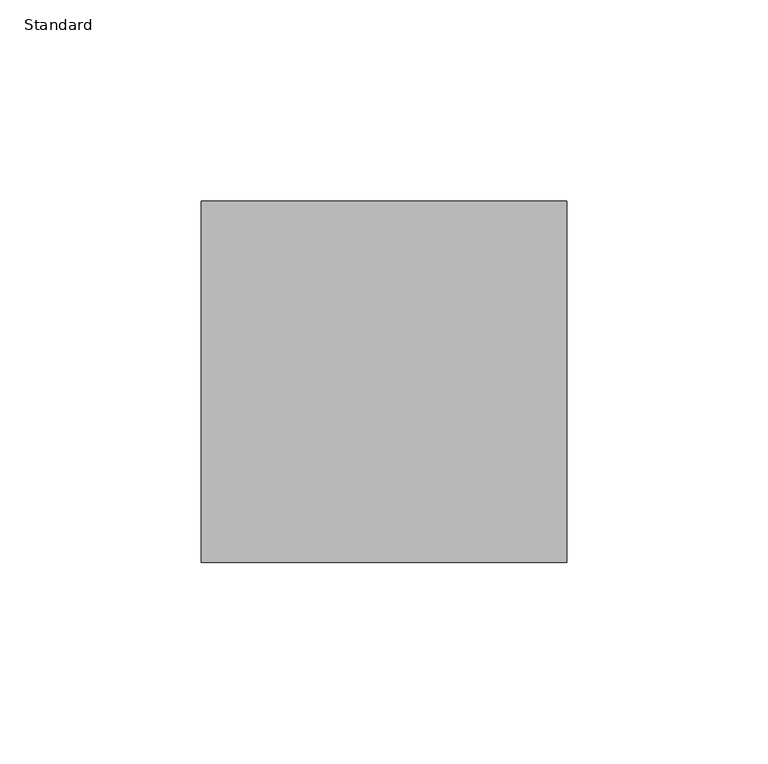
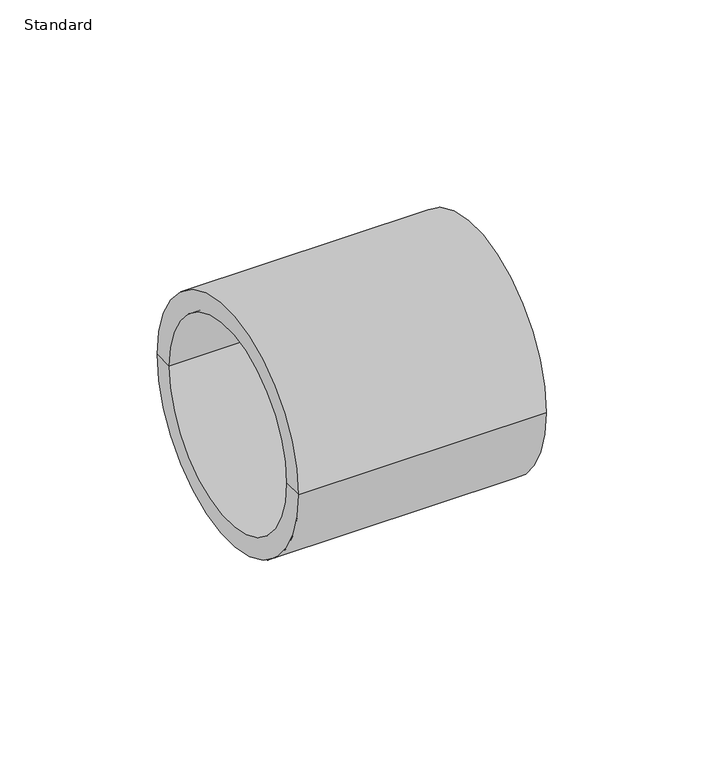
"""IFC4 building model written with IfcOpenShell, lengths in millimetres: pipe fitting geometry, Durapipe_PipeFitting_PVC_Socket : Standard."""

from ifc_helpers import new_model, si_unit, frame, origin, place, context, project, spatial, polyline, circle_curve, source, transform, mapped, element, save
from ifc_brep_helpers import plane_surface, cylinder_surface, revolved_surface, advanced_brep


def standard_5b41f391(model_context):
    return source(origin(), model_context, "Body", "AdvancedBrep", [
        advanced_brep(
        [(-45.5, -45.0, 0.0), (-45.5, 45.0, 0.0), (45.5, 45.0, 0.0), (45.5, -45.0, 0.0), (-45.5, -37.5, 0.0), (-45.5, 37.5, 0.0), (1.5, -34.5, 0.0), (1.5, 34.5, 0.0), (-1.5, 34.5, 0.0), (-1.5, -34.5, 0.0), (45.5, 37.5, 0.0), (45.5, -37.5, 0.0), (-1.5, -37.5, 0.0), (-1.5, 37.5, 0.0), (1.5, -37.5, 0.0), (1.5, 37.5, 0.0)],
        [
            (0, 1, circle_curve(frame((-45.5, 0.0, 0.0), z_axis=(1.0, 0.0, 0.0), x_axis=(0.0, 1.0, 0.0)), 45.0)),
            (1, 2),
            (2, 3, circle_curve(frame((45.5, 0.0, 0.0), z_axis=(-1.0, 0.0, 0.0), x_axis=(0.0, 1.0, 0.0)), 45.0)),
            (3, 0),
            (1, 0, circle_curve(frame((-45.5, 0.0, 0.0), z_axis=(1.0, 0.0, 0.0), x_axis=(0.0, 1.0, 0.0)), 45.0)),
            (3, 2, circle_curve(frame((45.5, 0.0, 0.0), z_axis=(-1.0, 0.0, 0.0), x_axis=(0.0, 1.0, 0.0)), 45.0)),
            (4, 5, circle_curve(frame((-45.5, 0.0, 0.0), z_axis=(1.0, 0.0, 0.0), x_axis=(0.0, 1.0, 0.0)), 37.5)),
            (5, 1),
            (0, 4),
            (5, 4, circle_curve(frame((-45.5, 0.0, 0.0), z_axis=(1.0, 0.0, 0.0), x_axis=(0.0, 1.0, 0.0)), 37.5)),
            (6, 7, circle_curve(frame((1.5, 0.0, 0.0), z_axis=(1.0, 0.0, 0.0), x_axis=(0.0, 1.0, 0.0)), 34.5)),
            (7, 8),
            (8, 9, circle_curve(frame((-1.5, 0.0, 0.0), z_axis=(-1.0, 0.0, 0.0), x_axis=(0.0, 1.0, 0.0)), 34.5)),
            (9, 6),
            (7, 6, circle_curve(frame((1.5, 0.0, 0.0), z_axis=(1.0, 0.0, 0.0), x_axis=(0.0, 1.0, 0.0)), 34.5)),
            (9, 8, circle_curve(frame((-1.5, 0.0, 0.0), z_axis=(-1.0, 0.0, 0.0), x_axis=(0.0, 1.0, 0.0)), 34.5)),
            (2, 10),
            (10, 11, circle_curve(frame((45.5, 0.0, 0.0), z_axis=(-1.0, 0.0, 0.0), x_axis=(0.0, 1.0, 0.0)), 37.5)),
            (11, 3),
            (11, 10, circle_curve(frame((45.5, 0.0, 0.0), z_axis=(-1.0, 0.0, 0.0), x_axis=(0.0, 1.0, 0.0)), 37.5)),
            (12, 13, circle_curve(frame((-1.5, 0.0, 0.0), z_axis=(1.0, 0.0, 0.0), x_axis=(0.0, 1.0, 0.0)), 37.5)),
            (13, 5),
            (4, 12),
            (13, 12, circle_curve(frame((-1.5, 0.0, 0.0), z_axis=(1.0, 0.0, 0.0), x_axis=(0.0, 1.0, 0.0)), 37.5)),
            (8, 13),
            (12, 9),
            (14, 15, circle_curve(frame((1.5, 0.0, 0.0), z_axis=(1.0, 0.0, 0.0), x_axis=(0.0, 1.0, 0.0)), 37.5)),
            (15, 7),
            (6, 14),
            (15, 14, circle_curve(frame((1.5, 0.0, 0.0), z_axis=(1.0, 0.0, 0.0), x_axis=(0.0, 1.0, 0.0)), 37.5)),
            (10, 15),
            (14, 11),
        ],
        [
            cylinder_surface(frame((-45.5, 0.0, 0.0), z_axis=(-1.0, 0.0, 0.0), x_axis=(0.0, 1.0, 0.0)), 45.0),
            plane_surface(frame((-45.5, 0.0, 0.0), z_axis=(-1.0, 0.0, 0.0), x_axis=(0.0, 1.0, 0.0))),
            revolved_surface(polyline([(-1.5, 34.5, 0.0), (1.5, 34.5, 0.0)]), (-45.5, 0.0, 0.0), (-1.0, 0.0, 0.0)),
            plane_surface(frame((45.5, 0.0, 0.0), z_axis=(1.0, 0.0, 0.0), x_axis=(0.0, 1.0, 0.0))),
            revolved_surface(polyline([(-45.5, 37.5, 0.0), (-1.5, 37.5, 0.0)]), (-45.5, 0.0, 0.0), (-1.0, 0.0, 0.0)),
            plane_surface(frame((-1.5, 0.0, 0.0), z_axis=(-1.0, 0.0, 0.0), x_axis=(0.0, 1.0, 0.0))),
            plane_surface(frame((1.5, 0.0, 0.0), z_axis=(1.0, 0.0, 0.0), x_axis=(0.0, 1.0, 0.0))),
            revolved_surface(polyline([(1.5, 37.5, 0.0), (45.5, 37.5, 0.0)]), (-45.5, 0.0, 0.0), (-1.0, 0.0, 0.0)),
        ],
        [
            (0, [[1, 2, 3, 4]]),
            (0, [[5, -4, 6, -2]]),
            (1, [[7, 8, -1, 9]]),
            (1, [[10, -9, -5, -8]]),
            (2, [[11, 12, 13, 14]]),
            (2, [[15, -14, 16, -12]]),
            (3, [[-3, 17, 18, 19]]),
            (3, [[-6, -19, 20, -17]]),
            (4, [[21, 22, -7, 23]]),
            (4, [[24, -23, -10, -22]]),
            (5, [[-13, 25, -21, 26]]),
            (5, [[-16, -26, -24, -25]]),
            (6, [[27, 28, -11, 29]]),
            (6, [[30, -29, -15, -28]]),
            (7, [[-18, 31, -27, 32]]),
            (7, [[-20, -32, -30, -31]]),
        ],
    ),
    ])


if __name__ == "__main__":
    model = new_model("IFC4")
    model_context = context("Model", 3, world=origin())
    ifc_project = project(units=[si_unit("LENGTHUNIT", "METRE", prefix="MILLI")], contexts=[model_context])
    site = spatial("IfcSite", under=ifc_project)
    building = spatial("IfcBuilding", under=site)
    placement = place(None, origin())
    standard_shape = standard_5b41f391(model_context)
    element("IfcPipeFitting", 1, ObjectType="Durapipe_PipeFitting_PVC_Socket : Standard", at=placement, inside=building, context=model_context, shape_type="MappedRepresentation", body=[
        mapped(standard_shape, transform((0.0, 0.0, 0.0), x_axis=(1.0, 0.0, 0.0), y_axis=(0.0, 1.0, 0.0), z_axis=(0.0, 0.0, 1.0))),
    ])
    save(model, "model.ifc")
